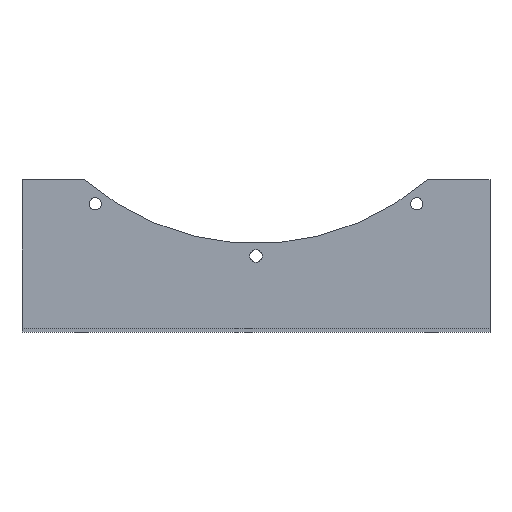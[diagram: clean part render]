
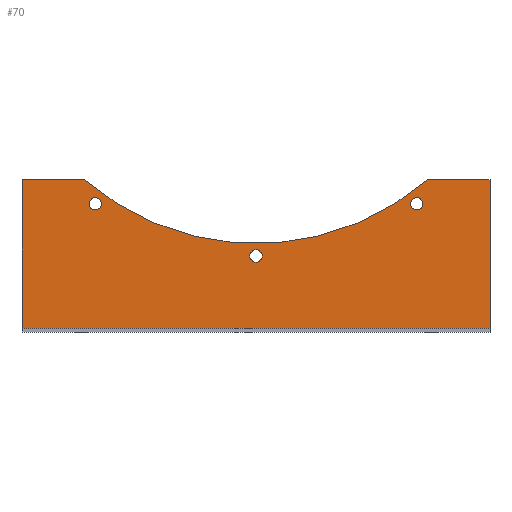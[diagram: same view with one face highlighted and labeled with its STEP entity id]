
A CAD part, top view. The second image highlights one B-rep face of the part: STEP entity #70.
In plain terms, the highlighted planar face has unit normal (0, 0, 1).
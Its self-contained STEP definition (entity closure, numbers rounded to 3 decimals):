
#70=ADVANCED_FACE('',(#143,#144,#145,#146),#147,.T.);
#143=FACE_BOUND('',#220,.T.);
#144=FACE_BOUND('',#221,.T.);
#145=FACE_BOUND('',#222,.T.);
#146=FACE_OUTER_BOUND('',#223,.T.);
#147=PLANE('',#224);
#220=EDGE_LOOP('',(#361,#362));
#221=EDGE_LOOP('',(#363,#364));
#222=EDGE_LOOP('',(#365,#366));
#223=EDGE_LOOP('',(#367,#368,#369,#370,#371,#372));
#224=AXIS2_PLACEMENT_3D('',#373,#374,#375);
#361=ORIENTED_EDGE('',*,*,#458,.T.);
#362=ORIENTED_EDGE('',*,*,#463,.T.);
#363=ORIENTED_EDGE('',*,*,#453,.T.);
#364=ORIENTED_EDGE('',*,*,#466,.T.);
#365=ORIENTED_EDGE('',*,*,#448,.T.);
#366=ORIENTED_EDGE('',*,*,#469,.T.);
#367=ORIENTED_EDGE('',*,*,#471,.T.);
#368=ORIENTED_EDGE('',*,*,#491,.F.);
#369=ORIENTED_EDGE('',*,*,#492,.F.);
#370=ORIENTED_EDGE('',*,*,#493,.F.);
#371=ORIENTED_EDGE('',*,*,#494,.F.);
#372=ORIENTED_EDGE('',*,*,#482,.F.);
#373=CARTESIAN_POINT('',(0.0,4.0,-11.0));
#374=DIRECTION('',(0.0,0.0,1.0));
#375=DIRECTION('',(1.0,0.0,0.0));
#448=EDGE_CURVE('',#532,#529,#533,.T.);
#453=EDGE_CURVE('',#541,#538,#542,.T.);
#458=EDGE_CURVE('',#550,#547,#551,.T.);
#463=EDGE_CURVE('',#547,#550,#557,.T.);
#466=EDGE_CURVE('',#538,#541,#560,.T.);
#469=EDGE_CURVE('',#529,#532,#563,.T.);
#471=EDGE_CURVE('',#565,#566,#567,.T.);
#482=EDGE_CURVE('',#565,#584,#585,.T.);
#491=EDGE_CURVE('',#594,#566,#595,.T.);
#492=EDGE_CURVE('',#596,#594,#597,.T.);
#493=EDGE_CURVE('',#598,#596,#599,.T.);
#494=EDGE_CURVE('',#584,#598,#600,.T.);
#529=VERTEX_POINT('',#643);
#532=VERTEX_POINT('',#647);
#533=CIRCLE('',#648,6.25);
#538=VERTEX_POINT('',#654);
#541=VERTEX_POINT('',#658);
#542=CIRCLE('',#659,6.25);
#547=VERTEX_POINT('',#665);
#550=VERTEX_POINT('',#669);
#551=CIRCLE('',#670,6.25);
#557=CIRCLE('',#677,6.25);
#560=CIRCLE('',#680,6.25);
#563=CIRCLE('',#683,6.25);
#565=VERTEX_POINT('',#685);
#566=VERTEX_POINT('',#686);
#567=CIRCLE('',#687,265.0);
#584=VERTEX_POINT('',#711);
#585=LINE('',#712,#713);
#594=VERTEX_POINT('',#723);
#595=LINE('',#724,#725);
#596=VERTEX_POINT('',#726);
#597=LINE('',#727,#728);
#598=VERTEX_POINT('',#729);
#599=LINE('',#730,#731);
#600=LINE('',#732,#733);
#643=CARTESIAN_POINT('',(6.25,0.,-11.0));
#647=CARTESIAN_POINT('',(-6.25,0.,-11.0));
#648=AXIS2_PLACEMENT_3D('',#779,#780,#781);
#654=CARTESIAN_POINT('',(168.167,56.671,-11.0));
#658=CARTESIAN_POINT('',(158.054,49.324,-11.0));
#659=AXIS2_PLACEMENT_3D('',#787,#788,#789);
#665=CARTESIAN_POINT('',(-158.054,49.324,-11.0));
#669=CARTESIAN_POINT('',(-168.167,56.671,-11.0));
#670=AXIS2_PLACEMENT_3D('',#795,#796,#797);
#677=AXIS2_PLACEMENT_3D('',#805,#806,#807);
#680=AXIS2_PLACEMENT_3D('',#811,#812,#813);
#683=AXIS2_PLACEMENT_3D('',#817,#818,#819);
#685=CARTESIAN_POINT('',(173.853,77.5,-11.0));
#686=CARTESIAN_POINT('',(-173.853,77.5,-11.0));
#687=AXIS2_PLACEMENT_3D('',#820,#821,#822);
#711=CARTESIAN_POINT('',(237.5,77.5,-11.0));
#712=CARTESIAN_POINT('',(0.0,77.5,-11.0));
#713=VECTOR('',#833,1.0);
#723=CARTESIAN_POINT('',(-237.5,77.5,-11.0));
#724=CARTESIAN_POINT('',(0.0,77.5,-11.0));
#725=VECTOR('',#847,1.0);
#726=CARTESIAN_POINT('',(-237.5,-73.5,-11.0));
#727=CARTESIAN_POINT('',(-237.5,2.0,-11.0));
#728=VECTOR('',#848,1.0);
#729=CARTESIAN_POINT('',(237.5,-73.5,-11.0));
#730=CARTESIAN_POINT('',(0.0,-73.5,-11.0));
#731=VECTOR('',#849,1.0);
#732=CARTESIAN_POINT('',(237.5,2.0,-11.0));
#733=VECTOR('',#850,1.0);
#779=CARTESIAN_POINT('',(0.0,0.0,-11.0));
#780=DIRECTION('',(0.0,0.0,-1.0));
#781=DIRECTION('',(1.0,0.0,0.0));
#787=CARTESIAN_POINT('',(163.11,52.998,-11.0));
#788=DIRECTION('',(0.0,0.0,-1.0));
#789=DIRECTION('',(0.809,0.588,0.0));
#795=CARTESIAN_POINT('',(-163.11,52.998,-11.0));
#796=DIRECTION('',(0.0,-0.0,-1.0));
#797=DIRECTION('',(0.809,-0.588,0.0));
#805=CARTESIAN_POINT('',(-163.11,52.998,-11.0));
#806=DIRECTION('',(0.0,-0.0,-1.0));
#807=DIRECTION('',(0.809,-0.588,0.0));
#811=CARTESIAN_POINT('',(163.11,52.998,-11.0));
#812=DIRECTION('',(0.0,0.0,-1.0));
#813=DIRECTION('',(0.809,0.588,0.0));
#817=CARTESIAN_POINT('',(0.0,0.0,-11.0));
#818=DIRECTION('',(0.0,0.0,-1.0));
#819=DIRECTION('',(1.0,0.0,0.0));
#820=CARTESIAN_POINT('',(0.0,277.5,-11.0));
#821=DIRECTION('',(0.0,0.0,-1.0));
#822=DIRECTION('',(1.0,0.0,0.0));
#833=DIRECTION('',(1.0,0.0,-0.0));
#847=DIRECTION('',(1.0,0.0,-0.0));
#848=DIRECTION('',(0.0,1.0,0.0));
#849=DIRECTION('',(-1.0,0.0,0.0));
#850=DIRECTION('',(0.0,-1.0,0.0));
